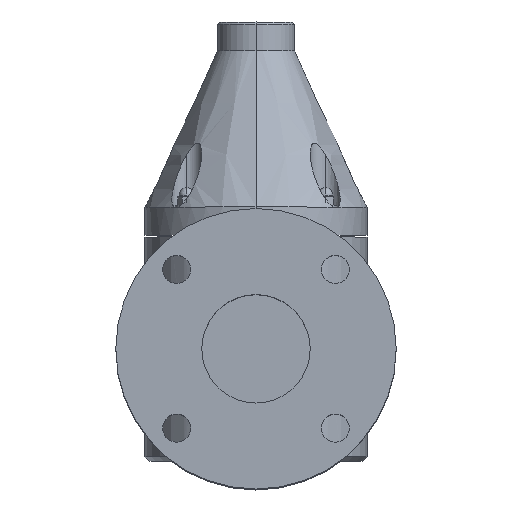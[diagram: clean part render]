
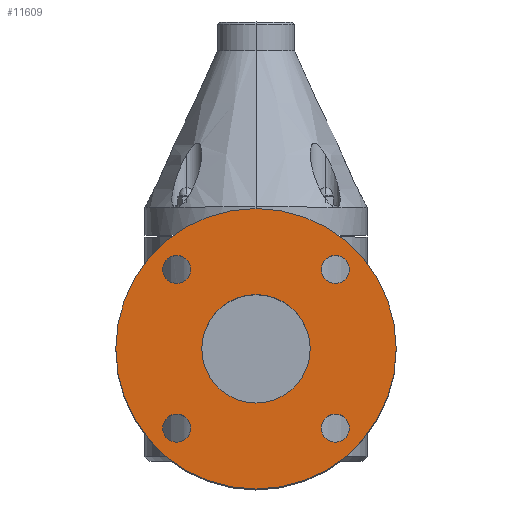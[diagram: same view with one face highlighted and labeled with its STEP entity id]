
A CAD part, top view. The second image highlights one B-rep face of the part: STEP entity #11609.
In plain terms, the highlighted planar face has unit normal (0, 0, 1).
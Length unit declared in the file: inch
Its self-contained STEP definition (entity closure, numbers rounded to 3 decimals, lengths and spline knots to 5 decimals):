
#474 = FACE_OUTER_BOUND ( 'NONE', #10596, .T. ) ;
#782 = CARTESIAN_POINT ( 'NONE',  ( -2.49632, 5.12132, 7.5 ) ) ;
#823 = VERTEX_POINT ( 'NONE', #7887 ) ;
#1020 = CIRCLE ( 'NONE', #2759, 0.375 ) ;
#1099 = CARTESIAN_POINT ( 'NONE',  ( 1.74632, 5.12132, 7.5 ) ) ;
#1335 = AXIS2_PLACEMENT_3D ( 'NONE', #3436, #10374, #4450 ) ;
#1437 = CARTESIAN_POINT ( 'NONE',  ( -2.12132, 0.87868, 7.5 ) ) ;
#1526 = CARTESIAN_POINT ( 'NONE',  ( 0., 3., 7.5 ) ) ;
#1666 = VERTEX_POINT ( 'NONE', #11853 ) ;
#1770 = PLANE ( 'NONE',  #11794 ) ;
#1811 = ORIENTED_EDGE ( 'NONE', *, *, #12106, .F. ) ;
#1928 = ORIENTED_EDGE ( 'NONE', *, *, #10221, .T. ) ;
#1955 = VERTEX_POINT ( 'NONE', #9640 ) ;
#2113 = CIRCLE ( 'NONE', #10960, 3.75 ) ;
#2161 = VERTEX_POINT ( 'NONE', #5894 ) ;
#2285 = EDGE_CURVE ( 'NONE', #4248, #7498, #5467, .T. ) ;
#2317 = CARTESIAN_POINT ( 'NONE',  ( 2.49632, 5.12132, 7.5 ) ) ;
#2364 = DIRECTION ( 'NONE',  ( 0., 0., 1. ) ) ;
#2394 = EDGE_LOOP ( 'NONE', ( #9259, #9510 ) ) ;
#2479 = VERTEX_POINT ( 'NONE', #10972 ) ;
#2501 = DIRECTION ( 'NONE',  ( 0., 1., 0. ) ) ;
#2581 = DIRECTION ( 'NONE',  ( 1., 0., 0. ) ) ;
#2671 = CARTESIAN_POINT ( 'NONE',  ( 0., 3., 7.5 ) ) ;
#2723 = ORIENTED_EDGE ( 'NONE', *, *, #12187, .T. ) ;
#2759 = AXIS2_PLACEMENT_3D ( 'NONE', #5715, #12628, #6706 ) ;
#3240 = EDGE_CURVE ( 'NONE', #3449, #2161, #5592, .T. ) ;
#3250 = FACE_BOUND ( 'NONE', #10259, .T. ) ;
#3315 = CIRCLE ( 'NONE', #8757, 1.45 ) ;
#3364 = CIRCLE ( 'NONE', #8022, 0.375 ) ;
#3436 = CARTESIAN_POINT ( 'NONE',  ( 2.12132, 5.12132, 7.5 ) ) ;
#3440 = AXIS2_PLACEMENT_3D ( 'NONE', #2671, #9629, #3681 ) ;
#3449 = VERTEX_POINT ( 'NONE', #9947 ) ;
#3633 = ORIENTED_EDGE ( 'NONE', *, *, #12146, .F. ) ;
#3681 = DIRECTION ( 'NONE',  ( 1., 0., 0. ) ) ;
#4054 = DIRECTION ( 'NONE',  ( 0., 0., 1. ) ) ;
#4248 = VERTEX_POINT ( 'NONE', #782 ) ;
#4450 = DIRECTION ( 'NONE',  ( 0., -1., 0. ) ) ;
#4528 = VERTEX_POINT ( 'NONE', #1099 ) ;
#4598 = EDGE_LOOP ( 'NONE', ( #12579, #5112 ) ) ;
#4642 = VERTEX_POINT ( 'NONE', #2317 ) ;
#4703 = ORIENTED_EDGE ( 'NONE', *, *, #2285, .F. ) ;
#4849 = DIRECTION ( 'NONE',  ( 1., 0., 0. ) ) ;
#5112 = ORIENTED_EDGE ( 'NONE', *, *, #10563, .F. ) ;
#5138 = DIRECTION ( 'NONE',  ( 0., 0., 1. ) ) ;
#5451 = AXIS2_PLACEMENT_3D ( 'NONE', #8330, #2364, #9335 ) ;
#5467 = CIRCLE ( 'NONE', #10933, 0.375 ) ;
#5500 = VERTEX_POINT ( 'NONE', #11411 ) ;
#5512 = CARTESIAN_POINT ( 'NONE',  ( 2.12132, 0.87868, 7.5 ) ) ;
#5590 = DIRECTION ( 'NONE',  ( 0., 0., 1. ) ) ;
#5592 = CIRCLE ( 'NONE', #7952, 0.375 ) ;
#5715 = CARTESIAN_POINT ( 'NONE',  ( 2.12132, 5.12132, 7.5 ) ) ;
#5814 = CARTESIAN_POINT ( 'NONE',  ( -2.12132, 0.87868, 7.5 ) ) ;
#5894 = CARTESIAN_POINT ( 'NONE',  ( -1.74632, 0.87868, 7.5 ) ) ;
#5911 = FACE_BOUND ( 'NONE', #8606, .T. ) ;
#6094 = DIRECTION ( 'NONE',  ( 0., 0., 1. ) ) ;
#6218 = FACE_BOUND ( 'NONE', #2394, .T. ) ;
#6482 = DIRECTION ( 'NONE',  ( -1., 0., 0. ) ) ;
#6706 = DIRECTION ( 'NONE',  ( 0., -1., 0. ) ) ;
#6796 = DIRECTION ( 'NONE',  ( 0., 1., 0. ) ) ;
#6824 = EDGE_CURVE ( 'NONE', #1666, #5500, #3364, .T. ) ;
#7445 = CIRCLE ( 'NONE', #11628, 0.375 ) ;
#7498 = VERTEX_POINT ( 'NONE', #11939 ) ;
#7737 = CARTESIAN_POINT ( 'NONE',  ( 0., 3., 7.5 ) ) ;
#7740 = CIRCLE ( 'NONE', #12971, 0.375 ) ;
#7887 = CARTESIAN_POINT ( 'NONE',  ( -3.75, 3., 7.5 ) ) ;
#7952 = AXIS2_PLACEMENT_3D ( 'NONE', #5814, #12742, #6796 ) ;
#8022 = AXIS2_PLACEMENT_3D ( 'NONE', #11046, #5138, #12038 ) ;
#8330 = CARTESIAN_POINT ( 'NONE',  ( 0., 3., 7.5 ) ) ;
#8434 = CIRCLE ( 'NONE', #3440, 3.75 ) ;
#8449 = DIRECTION ( 'NONE',  ( 0., 0., 1. ) ) ;
#8520 = FACE_BOUND ( 'NONE', #12537, .T. ) ;
#8545 = DIRECTION ( 'NONE',  ( 0., 0., 1. ) ) ;
#8606 = EDGE_LOOP ( 'NONE', ( #8974, #12160 ) ) ;
#8757 = AXIS2_PLACEMENT_3D ( 'NONE', #11995, #6094, #13031 ) ;
#8974 = ORIENTED_EDGE ( 'NONE', *, *, #12040, .F. ) ;
#9259 = ORIENTED_EDGE ( 'NONE', *, *, #12089, .F. ) ;
#9335 = DIRECTION ( 'NONE',  ( 1., 0., 0. ) ) ;
#9510 = ORIENTED_EDGE ( 'NONE', *, *, #6824, .F. ) ;
#9629 = DIRECTION ( 'NONE',  ( 0., 0., 1. ) ) ;
#9640 = CARTESIAN_POINT ( 'NONE',  ( -1.45, 3., 7.5 ) ) ;
#9667 = CARTESIAN_POINT ( 'NONE',  ( 3.75, 3., 7.5 ) ) ;
#9947 = CARTESIAN_POINT ( 'NONE',  ( -2.49632, 0.87868, 7.5 ) ) ;
#9981 = CARTESIAN_POINT ( 'NONE',  ( -2.12132, 5.12132, 7.5 ) ) ;
#10057 = AXIS2_PLACEMENT_3D ( 'NONE', #5512, #12423, #6482 ) ;
#10221 = EDGE_CURVE ( 'NONE', #10279, #823, #8434, .T. ) ;
#10240 = EDGE_CURVE ( 'NONE', #4528, #4642, #1020, .T. ) ;
#10259 = EDGE_LOOP ( 'NONE', ( #3633, #4703 ) ) ;
#10279 = VERTEX_POINT ( 'NONE', #9667 ) ;
#10374 = DIRECTION ( 'NONE',  ( 0., 0., 1. ) ) ;
#10384 = CIRCLE ( 'NONE', #10057, 0.375 ) ;
#10563 = EDGE_CURVE ( 'NONE', #1955, #2479, #3315, .T. ) ;
#10596 = EDGE_LOOP ( 'NONE', ( #1928, #2723 ) ) ;
#10672 = CIRCLE ( 'NONE', #1335, 0.375 ) ;
#10754 = DIRECTION ( 'NONE',  ( 0., 0., 1. ) ) ;
#10933 = AXIS2_PLACEMENT_3D ( 'NONE', #9981, #4054, #10977 ) ;
#10960 = AXIS2_PLACEMENT_3D ( 'NONE', #1526, #8545, #2581 ) ;
#10972 = CARTESIAN_POINT ( 'NONE',  ( 1.45, 3., 7.5 ) ) ;
#10977 = DIRECTION ( 'NONE',  ( 1., 0., 0. ) ) ;
#10978 = ORIENTED_EDGE ( 'NONE', *, *, #3240, .F. ) ;
#10994 = CIRCLE ( 'NONE', #5451, 1.45 ) ;
#11046 = CARTESIAN_POINT ( 'NONE',  ( 2.12132, 0.87868, 7.5 ) ) ;
#11161 = FACE_BOUND ( 'NONE', #4598, .T. ) ;
#11411 = CARTESIAN_POINT ( 'NONE',  ( 2.49632, 0.87868, 7.5 ) ) ;
#11484 = CARTESIAN_POINT ( 'NONE',  ( -2.12132, 5.12132, 7.5 ) ) ;
#11609 = ADVANCED_FACE ( 'NONE', ( #11161, #5911, #6218, #8520, #3250, #474 ), #1770, .T. ) ;
#11628 = AXIS2_PLACEMENT_3D ( 'NONE', #11484, #5590, #12500 ) ;
#11794 = AXIS2_PLACEMENT_3D ( 'NONE', #7737, #10754, #4849 ) ;
#11853 = CARTESIAN_POINT ( 'NONE',  ( 1.74632, 0.87868, 7.5 ) ) ;
#11939 = CARTESIAN_POINT ( 'NONE',  ( -1.74632, 5.12132, 7.5 ) ) ;
#11961 = EDGE_CURVE ( 'NONE', #2479, #1955, #10994, .T. ) ;
#11995 = CARTESIAN_POINT ( 'NONE',  ( 0., 3., 7.5 ) ) ;
#12038 = DIRECTION ( 'NONE',  ( -1., 0., 0. ) ) ;
#12040 = EDGE_CURVE ( 'NONE', #4642, #4528, #10672, .T. ) ;
#12089 = EDGE_CURVE ( 'NONE', #5500, #1666, #10384, .T. ) ;
#12106 = EDGE_CURVE ( 'NONE', #2161, #3449, #7740, .T. ) ;
#12146 = EDGE_CURVE ( 'NONE', #7498, #4248, #7445, .T. ) ;
#12160 = ORIENTED_EDGE ( 'NONE', *, *, #10240, .F. ) ;
#12187 = EDGE_CURVE ( 'NONE', #823, #10279, #2113, .T. ) ;
#12423 = DIRECTION ( 'NONE',  ( 0., 0., 1. ) ) ;
#12500 = DIRECTION ( 'NONE',  ( 1., 0., 0. ) ) ;
#12537 = EDGE_LOOP ( 'NONE', ( #1811, #10978 ) ) ;
#12579 = ORIENTED_EDGE ( 'NONE', *, *, #11961, .F. ) ;
#12628 = DIRECTION ( 'NONE',  ( 0., 0., 1. ) ) ;
#12742 = DIRECTION ( 'NONE',  ( 0., 0., 1. ) ) ;
#12971 = AXIS2_PLACEMENT_3D ( 'NONE', #1437, #8449, #2501 ) ;
#13031 = DIRECTION ( 'NONE',  ( 1., 0., 0. ) ) ;
